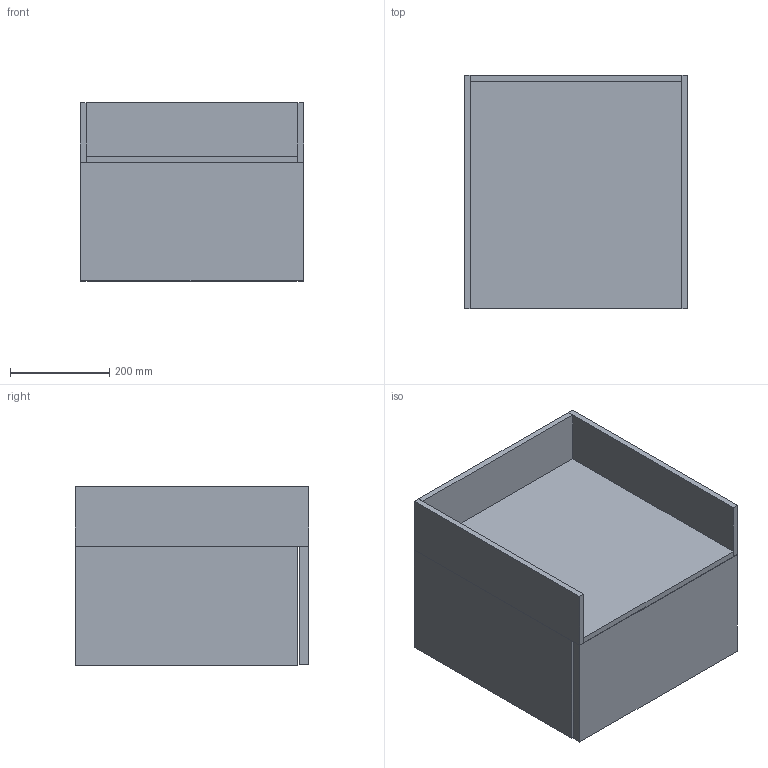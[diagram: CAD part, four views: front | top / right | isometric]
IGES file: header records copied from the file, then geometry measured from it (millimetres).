
Start section: Data from Parasolid IGES Translator 19.0.9, Copyright(c) 2006 Siemens PL M Software. All Rights Reserved.
Global section: file name: noorth-SI-H 36 D 47 W 45_8356.igs; native system: By Siemens PLM Incorporated; preprocessor: XPlus GENERIC/IGES 19.0.9; author: Noname; organization: Noname; date: 20200601.094132; units: metre
Bounding box: 450.01 x 470 x 360 mm (x, y, z)
Volume: 16017418.2 mm3; surface area: 2476256.4 mm2
Topology: 10 solids, 10 shells, 60 faces, 120 edges, 80 vertices
Faces by surface type: plane 60
